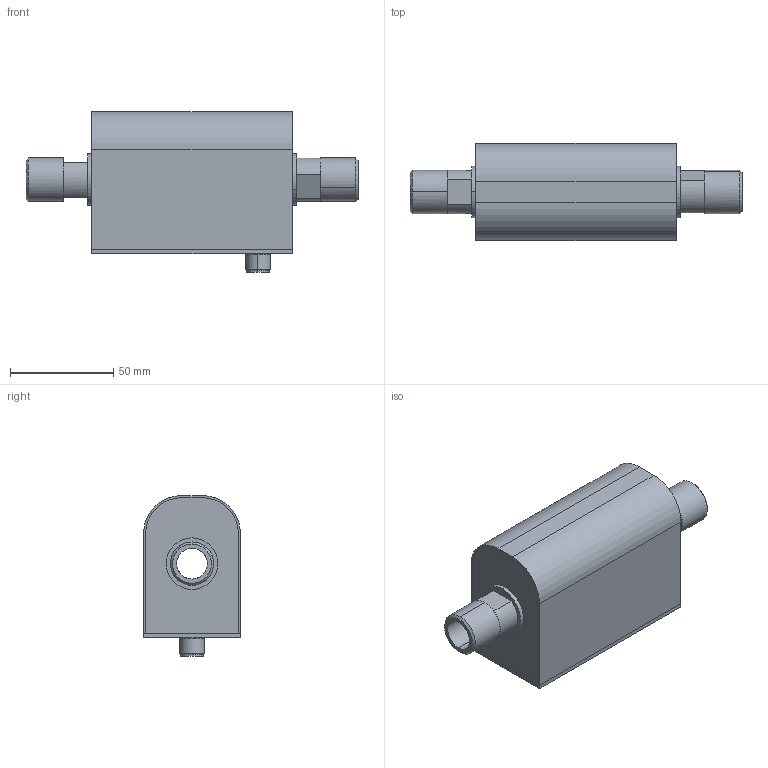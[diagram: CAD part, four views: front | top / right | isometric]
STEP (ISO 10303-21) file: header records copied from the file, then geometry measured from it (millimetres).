
FILE_DESCRIPTION (( 'STEP AP203' ), '1' );
FILE_NAME ('F32_Thread_DN15.STEP', '2019-10-03T16:53:11', ( 'Uživatel systému Windows' ), ( '' ), 'SwSTEP 2.0', 'SolidWorks 2017', '' );
FILE_SCHEMA (( 'CONFIG_CONTROL_DESIGN' ));
Length unit declared in the file: millimetre
Products named in the file (8): F32-90-1-3_2018(F32DN4-20_Kryt Plech_r2); F32-90-3-2_2019(F32 DN4-18 閣咜ek Plech bez displeje ); FPW_Svìtlovod; FPW_Svìtlovod2; Konektor M12_8pin; F32-11-20-3_2019 (F32 G1_2 šroubení DN4-15); F32_Thread_DN15; F32-130-3-3_2019(F32DN4-18 Výpylek èela)
Assembly tree (9 placements, depth 2):
  F32_Thread_DN15
    F32-130-3-3_2019(F32DN4-18 Výpylek èela)  x2
    F32-90-1-3_2018(F32DN4-20_Kryt Plech_r2)
    F32-90-3-2_2019(F32 DN4-18 閣咜ek Plech bez displeje )
    FPW_Svìtlovod
    FPW_Svìtlovod2
    Konektor M12_8pin
    F32-11-20-3_2019 (F32 G1_2 šroubení DN4-15)  x2
Bounding box: 161 x 47 x 78 mm (x, y, z)
Volume: 68535.5 mm3; surface area: 72343.2 mm2
Topology: 9 solids, 9 shells, 513 faces, 1322 edges, 860 vertices
Faces by surface type: plane 324, cylinder 139, cone 22, bspline 20, torus 8
Entity records: 15327 total; most frequent: CARTESIAN_POINT 2847, ORIENTED_EDGE 2408, DIRECTION 2389, EDGE_CURVE 1204, VECTOR 897, LINE 897, VERTEX_POINT 794, AXIS2_PLACEMENT_3D 746
